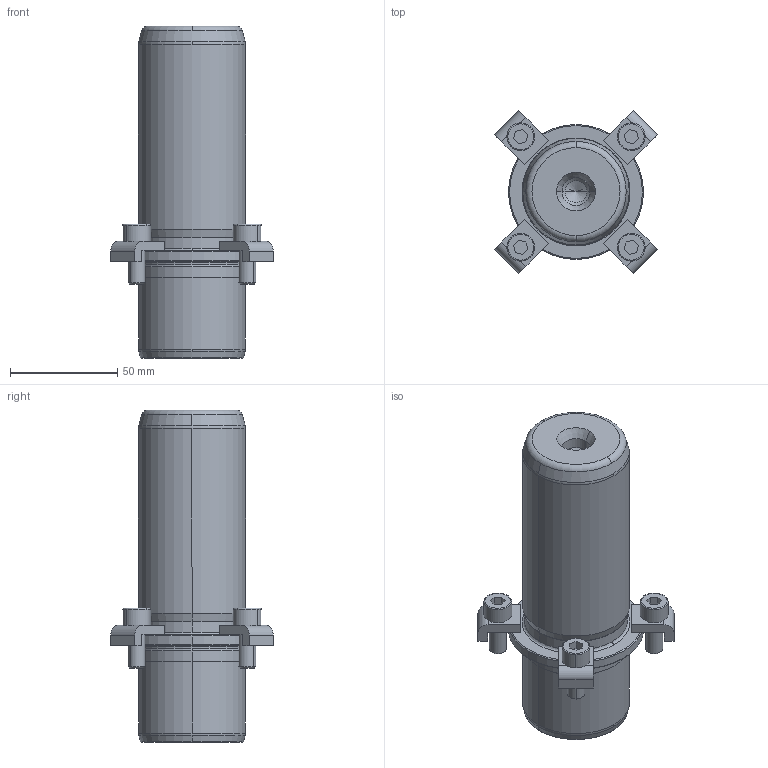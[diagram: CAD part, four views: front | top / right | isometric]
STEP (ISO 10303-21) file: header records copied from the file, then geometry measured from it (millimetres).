
FILE_DESCRIPTION((''),'2;1');
FILE_NAME('P21_050_110.stp','2008-12-23T13:41:55',(''),(''),'Mechanical Desktop 2009','Mechanical Desktop 2009',', , ');
FILE_SCHEMA(('CONFIG_CONTROL_DESIGN'));
Length unit declared in the file: millimetre
Products named in the file (2): Product; blmdl1
Assembly tree (1 placements, depth 2):
  Product
    blmdl1
Bounding box: 76.01 x 76.01 x 155 mm (x, y, z)
Volume: 312511.2 mm3; surface area: 41716.1 mm2
Topology: 9 solids, 9 shells, 195 faces, 477 edges, 309 vertices
Faces by surface type: plane 77, cylinder 52, cone 34, torus 16, bspline 16
Entity records: 6547 total; most frequent: CARTESIAN_POINT 1683, DIRECTION 1078, ORIENTED_EDGE 946, EDGE_CURVE 473, AXIS2_PLACEMENT_3D 424, VERTEX_POINT 309, CIRCLE 243, VECTOR 230
